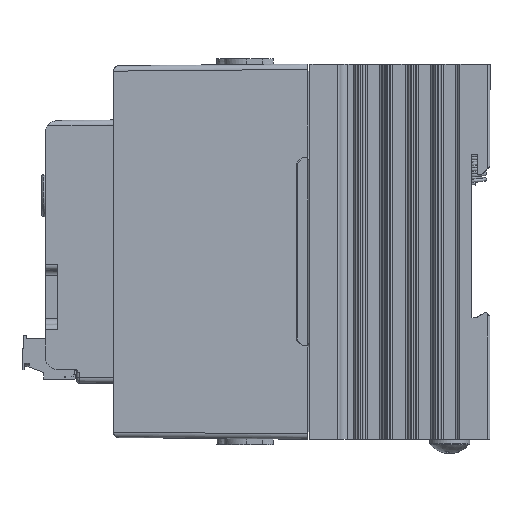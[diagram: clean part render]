
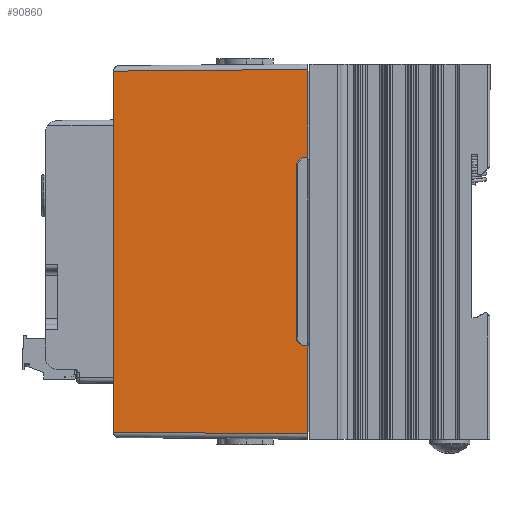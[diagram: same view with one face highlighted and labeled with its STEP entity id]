
A CAD part, left-side view. The second image highlights one B-rep face of the part: STEP entity #90860.
In plain terms, the highlighted planar face has unit normal (-1, 0.009, 0) as drawn and (1, 0, 0.009) by its records, which use the part's own axes.
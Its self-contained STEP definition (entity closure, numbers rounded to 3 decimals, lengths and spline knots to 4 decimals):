
#9138=FACE_OUTER_BOUND('',#14212,.T.);
#14212=EDGE_LOOP('',(#80049,#80050,#80051,#80052,#80053,#80054,#80055,#80056,
#80057,#80058));
#23559=LINE('',#160764,#33657);
#23689=LINE('',#161549,#33787);
#23695=LINE('',#161561,#33793);
#23699=LINE('',#161567,#33797);
#23701=LINE('',#161571,#33799);
#23703=LINE('',#161575,#33801);
#23704=LINE('',#161578,#33802);
#24049=LINE('',#162336,#34147);
#24051=LINE('',#162342,#34149);
#24052=LINE('',#162343,#34150);
#33657=VECTOR('',#119476,0.3937);
#33787=VECTOR('',#119852,0.3937);
#33793=VECTOR('',#119862,0.3937);
#33797=VECTOR('',#119870,0.3937);
#33799=VECTOR('',#119874,0.3937);
#33801=VECTOR('',#119878,0.3937);
#33802=VECTOR('',#119881,0.3937);
#34147=VECTOR('',#120606,0.3937);
#34149=VECTOR('',#120614,0.3937);
#34150=VECTOR('',#120615,0.3937);
#42341=VERTEX_POINT('',#160761);
#42342=VERTEX_POINT('',#160763);
#42445=VERTEX_POINT('',#161546);
#42446=VERTEX_POINT('',#161548);
#42449=VERTEX_POINT('',#161558);
#42450=VERTEX_POINT('',#161560);
#42451=VERTEX_POINT('',#161569);
#42452=VERTEX_POINT('',#161573);
#42453=VERTEX_POINT('',#161577);
#42653=VERTEX_POINT('',#162341);
#54740=EDGE_CURVE('',#42342,#42341,#23559,.T.);
#54928=EDGE_CURVE('',#42446,#42445,#23689,.T.);
#54934=EDGE_CURVE('',#42450,#42449,#23695,.T.);
#54938=EDGE_CURVE('',#42445,#42450,#23699,.T.);
#54940=EDGE_CURVE('',#42449,#42451,#23701,.T.);
#54942=EDGE_CURVE('',#42451,#42452,#23703,.T.);
#54943=EDGE_CURVE('',#42453,#42446,#23704,.T.);
#55309=EDGE_CURVE('',#42453,#42341,#24049,.T.);
#55312=EDGE_CURVE('',#42452,#42653,#24051,.T.);
#55313=EDGE_CURVE('',#42342,#42653,#24052,.T.);
#80049=ORIENTED_EDGE('',*,*,#54942,.T.);
#80050=ORIENTED_EDGE('',*,*,#55312,.T.);
#80051=ORIENTED_EDGE('',*,*,#55313,.F.);
#80052=ORIENTED_EDGE('',*,*,#54740,.T.);
#80053=ORIENTED_EDGE('',*,*,#55309,.F.);
#80054=ORIENTED_EDGE('',*,*,#54943,.T.);
#80055=ORIENTED_EDGE('',*,*,#54928,.T.);
#80056=ORIENTED_EDGE('',*,*,#54938,.T.);
#80057=ORIENTED_EDGE('',*,*,#54934,.T.);
#80058=ORIENTED_EDGE('',*,*,#54940,.T.);
#86309=PLANE('',#97993);
#90860=ADVANCED_FACE('',(#9138),#86309,.T.);
#97993=AXIS2_PLACEMENT_3D('',#162340,#120612,#120613);
#119476=DIRECTION('',(0.,-1.,0.));
#119852=DIRECTION('',(-0.009,0.009,1.));
#119862=DIRECTION('',(0.,1.,0.));
#119870=DIRECTION('',(-0.006,0.71,0.704));
#119874=DIRECTION('',(0.006,0.71,-0.704));
#119878=DIRECTION('',(0.009,0.009,-1.));
#119881=DIRECTION('',(0.,1.,0.));
#120606=DIRECTION('',(-0.009,0.009,1.));
#120612=DIRECTION('center_axis',(1.,0.,
0.009));
#120613=DIRECTION('ref_axis',(0.,1.,0.));
#120614=DIRECTION('',(0.,1.,0.));
#120615=DIRECTION('',(0.009,0.009,-1.));
#160761=CARTESIAN_POINT('',(1.3842,0.0658,1.811));
#160763=CARTESIAN_POINT('',(1.3842,3.4342,1.811));
#160764=CARTESIAN_POINT('',(1.3842,0.,1.811));
#161546=CARTESIAN_POINT('',(1.3995,0.8705,0.0521));
#161548=CARTESIAN_POINT('',(1.4,0.87,0.));
#161549=CARTESIAN_POINT('',(1.3996,0.8704,0.0436));
#161558=CARTESIAN_POINT('',(1.3991,2.5762,0.105));
#161560=CARTESIAN_POINT('',(1.3991,0.9238,0.105));
#161561=CARTESIAN_POINT('',(1.3991,3.0381,0.105));
#161567=CARTESIAN_POINT('',(1.3937,1.5503,0.726));
#161569=CARTESIAN_POINT('',(1.3995,2.6295,0.0521));
#161571=CARTESIAN_POINT('',(1.4015,2.859,-0.1754));
#161573=CARTESIAN_POINT('',(1.4,2.63,0.));
#161575=CARTESIAN_POINT('',(1.4,2.63,0.0023));
#161577=CARTESIAN_POINT('',(1.4,0.05,0.));
#161578=CARTESIAN_POINT('',(1.4,0.,0.));
#162336=CARTESIAN_POINT('',(1.3999,0.0501,0.0148));
#162340=CARTESIAN_POINT('Origin',(1.4,3.5,0.));
#162341=CARTESIAN_POINT('',(1.4,3.45,0.));
#162342=CARTESIAN_POINT('',(1.4,0.,0.));
#162343=CARTESIAN_POINT('',(1.4,3.45,0.0057));
